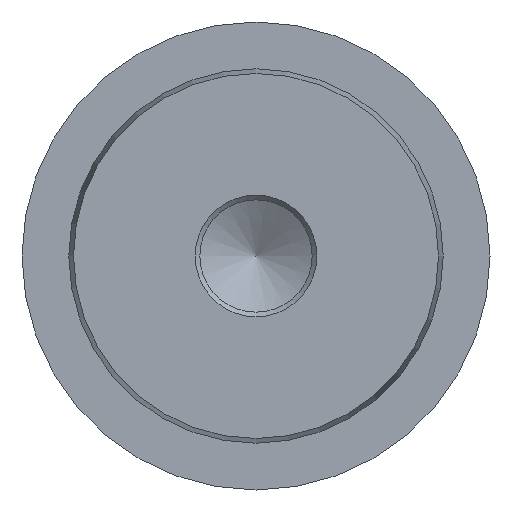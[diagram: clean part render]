
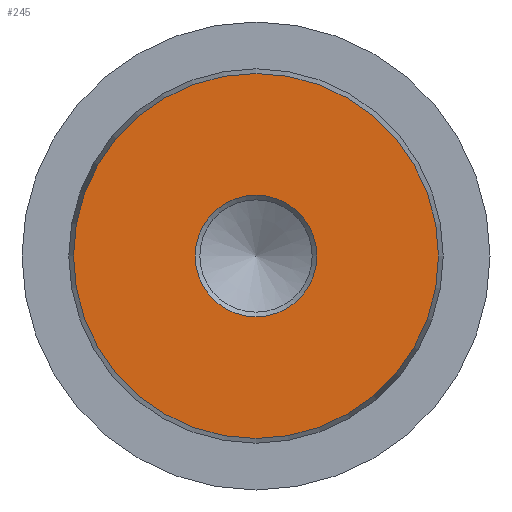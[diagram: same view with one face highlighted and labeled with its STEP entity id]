
A CAD part, left-side view. The second image highlights one B-rep face of the part: STEP entity #245.
In plain terms, the highlighted planar face has unit normal (-1, 0, 0).
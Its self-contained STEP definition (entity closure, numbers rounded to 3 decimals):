
#14=FACE_BOUND('',#81,.T.);
#24=PLANE('',#290);
#63=FACE_OUTER_BOUND('',#80,.T.);
#80=EDGE_LOOP('',(#182));
#81=EDGE_LOOP('',(#183));
#101=CIRCLE('',#289,6.5);
#102=CIRCLE('',#291,19.5);
#119=VERTEX_POINT('',#419);
#120=VERTEX_POINT('',#423);
#141=EDGE_CURVE('',#119,#119,#101,.T.);
#142=EDGE_CURVE('',#120,#120,#102,.T.);
#182=ORIENTED_EDGE('',*,*,#142,.F.);
#183=ORIENTED_EDGE('',*,*,#141,.T.);
#245=ADVANCED_FACE('',(#63,#14),#24,.T.);
#289=AXIS2_PLACEMENT_3D('',#421,#343,#344);
#290=AXIS2_PLACEMENT_3D('',#422,#345,#346);
#291=AXIS2_PLACEMENT_3D('',#424,#347,#348);
#343=DIRECTION('center_axis',(1.,0.,0.));
#344=DIRECTION('ref_axis',(0.,0.,-1.));
#345=DIRECTION('center_axis',(-1.,0.,0.));
#346=DIRECTION('ref_axis',(0.,0.,1.));
#347=DIRECTION('center_axis',(1.,0.,0.));
#348=DIRECTION('ref_axis',(0.,0.,-1.));
#419=CARTESIAN_POINT('',(0.,-6.5,0.));
#421=CARTESIAN_POINT('Origin',(0.,0.,0.));
#422=CARTESIAN_POINT('Origin',(0.,19.5,0.));
#423=CARTESIAN_POINT('',(0.,-19.5,0.));
#424=CARTESIAN_POINT('Origin',(0.,0.,0.));
